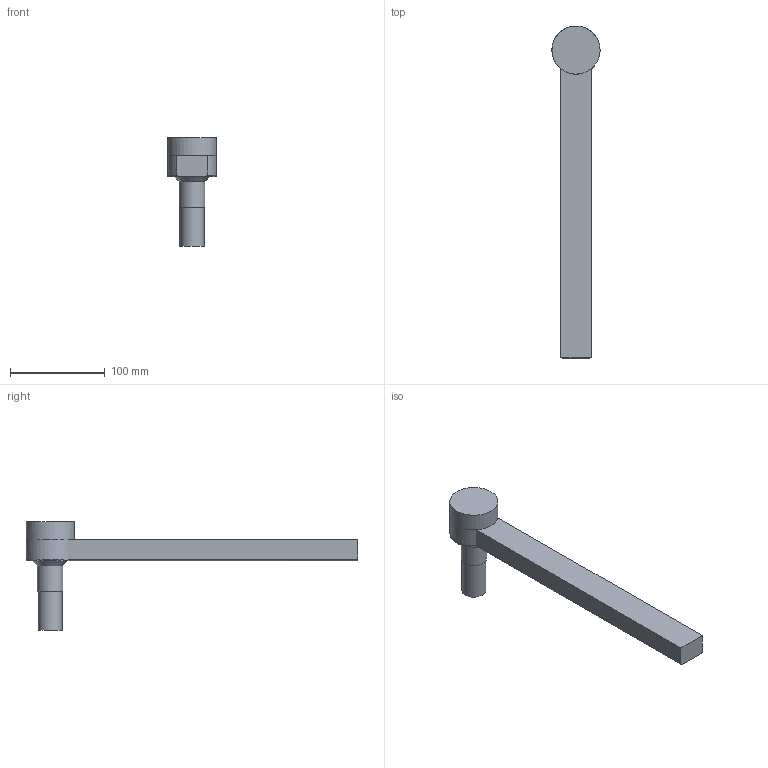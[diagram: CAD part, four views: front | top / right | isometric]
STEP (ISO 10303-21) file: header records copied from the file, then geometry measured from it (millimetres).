
FILE_DESCRIPTION(/* description */ (''),/* implementation_level */ '2;1');
FILE_NAME(/* name */ 'B04113TRUPas.stp',/* time_stamp */ '2019-10-02T16:09:21-04:00',/* author */ (''),/* organization */ (''),/* preprocessor_version */ 'ST-DEVELOPER v16',/* originating_system */ 'SIEMENS PLM Software NX 11.0',/* authorisation */ '');
FILE_SCHEMA (('AUTOMOTIVE_DESIGN { 1 0 10303 214 3 1 1 1 }'));
Length unit declared in the file: inch
Products named in the file (3): B04XX_SubSolid; B04113TRUPd; B04113TRUPas
Assembly tree (2 placements, depth 2):
  B04113TRUPas
    B04113TRUPd
    B04XX_SubSolid
Bounding box: 50.91 x 350.87 x 115.09 mm (x, y, z)
Volume: 407152.3 mm3; surface area: 65620.7 mm2
Topology: 2 solids, 3 shells, 34 faces, 72 edges, 45 vertices
Faces by surface type: plane 13, cylinder 10, cone 6, torus 3, sphere 1, revolution 1
Full cylindrical faces by diameter (mm): 8.731 x2, 25.4 x2, 26.987 x1, 50.927 x1
Entity records: 874 total; most frequent: CARTESIAN_POINT 167, DIRECTION 142, ORIENTED_EDGE 96, AXIS2_PLACEMENT_3D 62, EDGE_LOOP 54, EDGE_CURVE 48, FACE_BOUND 45, VERTEX_POINT 40
